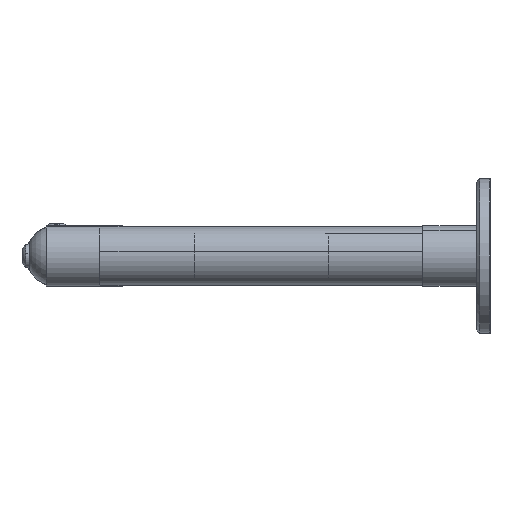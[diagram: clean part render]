
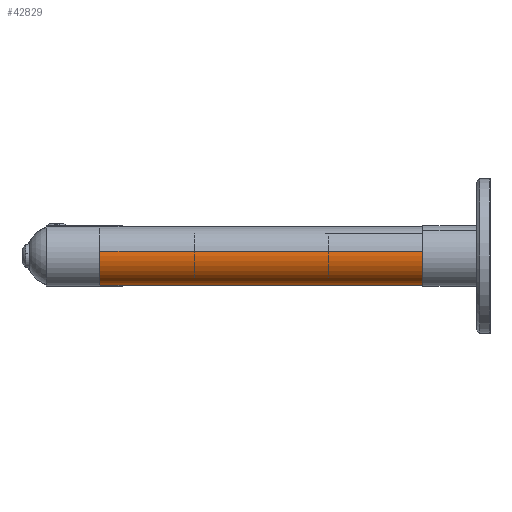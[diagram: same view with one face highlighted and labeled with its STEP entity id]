
A CAD part, left-side view. The second image highlights one B-rep face of the part: STEP entity #42829.
In plain terms, the highlighted cylindrical face has radius 13.716 mm (diameter 27.432 mm), a partial arc.
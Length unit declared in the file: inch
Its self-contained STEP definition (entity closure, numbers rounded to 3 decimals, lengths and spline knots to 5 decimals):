
#1836 = AXIS2_PLACEMENT_3D ( 'NONE', #8627, #39232, #13061 ) ;
#3732 = DIRECTION ( 'NONE',  ( 0., -1., 0. ) ) ;
#7469 = LINE ( 'NONE', #25655, #52706 ) ;
#8627 = CARTESIAN_POINT ( 'NONE',  ( 0., 1.125, 0. ) ) ;
#9679 = VECTOR ( 'NONE', #25832, 39.37008 ) ;
#11199 = EDGE_LOOP ( 'NONE', ( #21409, #50963, #51744, #15082 ) ) ;
#11542 = CARTESIAN_POINT ( 'NONE',  ( 0., 1.125, 0. ) ) ;
#12814 = VERTEX_POINT ( 'NONE', #15029 ) ;
#13061 = DIRECTION ( 'NONE',  ( 0.986, 0., -0.165 ) ) ;
#13075 = EDGE_CURVE ( 'NONE', #33504, #42755, #24734, .T. ) ;
#14345 = CIRCLE ( 'NONE', #16090, 0.54 ) ;
#15029 = CARTESIAN_POINT ( 'NONE',  ( 0.53261, 7.125, -0.08903 ) ) ;
#15082 = ORIENTED_EDGE ( 'NONE', *, *, #13075, .F. ) ;
#16090 = AXIS2_PLACEMENT_3D ( 'NONE', #43994, #17819, #48404 ) ;
#17819 = DIRECTION ( 'NONE',  ( 0., -1., 0. ) ) ;
#21229 = EDGE_CURVE ( 'NONE', #35936, #12814, #14345, .T. ) ;
#21367 = LINE ( 'NONE', #56230, #9679 ) ;
#21409 = ORIENTED_EDGE ( 'NONE', *, *, #52800, .F. ) ;
#24244 = DIRECTION ( 'NONE',  ( 0.986, 0., -0.165 ) ) ;
#24734 = CIRCLE ( 'NONE', #1836, 0.54 ) ;
#25655 = CARTESIAN_POINT ( 'NONE',  ( -0.53261, 1.125, 0.08903 ) ) ;
#25832 = DIRECTION ( 'NONE',  ( 0., -1., 0. ) ) ;
#26894 = CARTESIAN_POINT ( 'NONE',  ( -0.53261, 7.125, 0.08903 ) ) ;
#27059 = CYLINDRICAL_SURFACE ( 'NONE', #46536, 0.54 ) ;
#30128 = EDGE_CURVE ( 'NONE', #12814, #42755, #21367, .T. ) ;
#33504 = VERTEX_POINT ( 'NONE', #42336 ) ;
#35936 = VERTEX_POINT ( 'NONE', #26894 ) ;
#37727 = DIRECTION ( 'NONE',  ( 0., -1., 0. ) ) ;
#39232 = DIRECTION ( 'NONE',  ( 0., -1., 0. ) ) ;
#39978 = FACE_OUTER_BOUND ( 'NONE', #11199, .T. ) ;
#42336 = CARTESIAN_POINT ( 'NONE',  ( -0.53261, 1.125, 0.08903 ) ) ;
#42755 = VERTEX_POINT ( 'NONE', #50981 ) ;
#42829 = ADVANCED_FACE ( 'NONE', ( #39978 ), #27059, .T. ) ;
#43994 = CARTESIAN_POINT ( 'NONE',  ( 0., 7.125, 0. ) ) ;
#46536 = AXIS2_PLACEMENT_3D ( 'NONE', #11542, #37727, #24244 ) ;
#48404 = DIRECTION ( 'NONE',  ( 0.986, 0., -0.165 ) ) ;
#50963 = ORIENTED_EDGE ( 'NONE', *, *, #21229, .T. ) ;
#50981 = CARTESIAN_POINT ( 'NONE',  ( 0.53261, 1.125, -0.08903 ) ) ;
#51744 = ORIENTED_EDGE ( 'NONE', *, *, #30128, .T. ) ;
#52706 = VECTOR ( 'NONE', #3732, 39.37008 ) ;
#52800 = EDGE_CURVE ( 'NONE', #35936, #33504, #7469, .T. ) ;
#56230 = CARTESIAN_POINT ( 'NONE',  ( 0.53261, 1.125, -0.08903 ) ) ;
